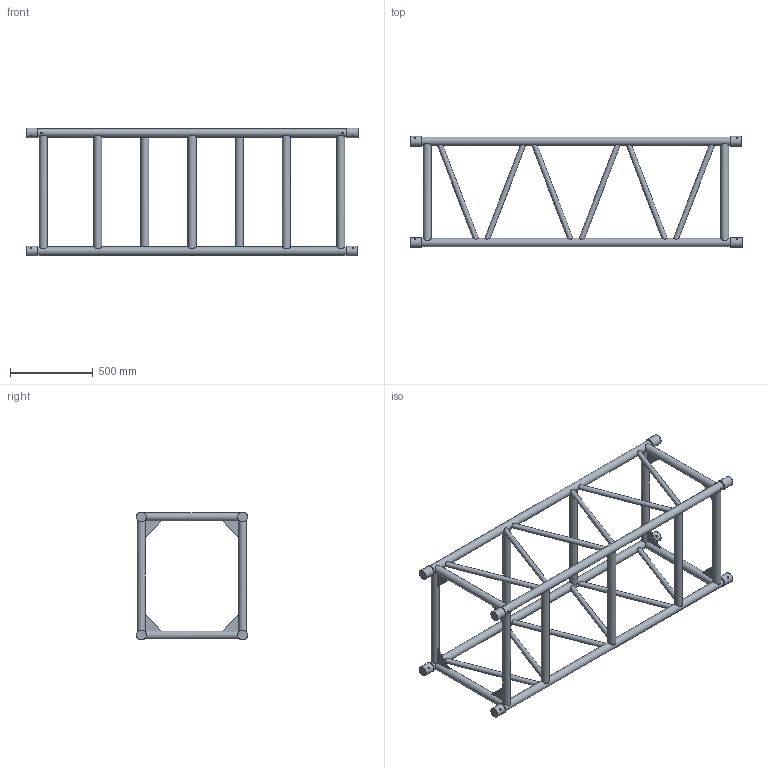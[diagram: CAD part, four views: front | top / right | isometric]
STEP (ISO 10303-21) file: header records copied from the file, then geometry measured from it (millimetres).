
FILE_DESCRIPTION(/* description */ (''),/* implementation_level */ '2;1');
FILE_NAME(/* name */ 'C:\Users\adrian.toca\Desktop\111110176.stp',/* time_stamp */ '2016-12-07T14:48:27+02:00',/* author */ ('adrian.toca'),/* organization */ (''),/* preprocessor_version */ 'ST-DEVELOPER v15.6',/* originating_system */ 'Autodesk Inventor 2015',/* authorisation */ '');
FILE_SCHEMA (('AUTOMOTIVE_DESIGN { 1 0 10303 214 3 1 1 }'));
Length unit declared in the file: millimetre
Products named in the file (1): 260031314
Bounding box: 2000 x 668.58 x 770.58 mm (x, y, z)
Volume: 36537065.1 mm3; surface area: 3294229.2 mm2
Topology: 1 solids, 1 shells, 241 faces, 632 edges, 390 vertices
Faces by surface type: plane 172, cylinder 61, cone 8
Full cylindrical faces by diameter (mm): 10 x8, 30 x12, 48.3 x9, 48.302 x4, 50 x4, 58.8 x8
Entity records: 9665 total; most frequent: CARTESIAN_POINT 3970, DIRECTION 1064, ORIENTED_EDGE 1032, EDGE_CURVE 508, AXIS2_PLACEMENT_3D 454, EDGE_LOOP 376, VERTEX_POINT 344, STYLED_ITEM 242
